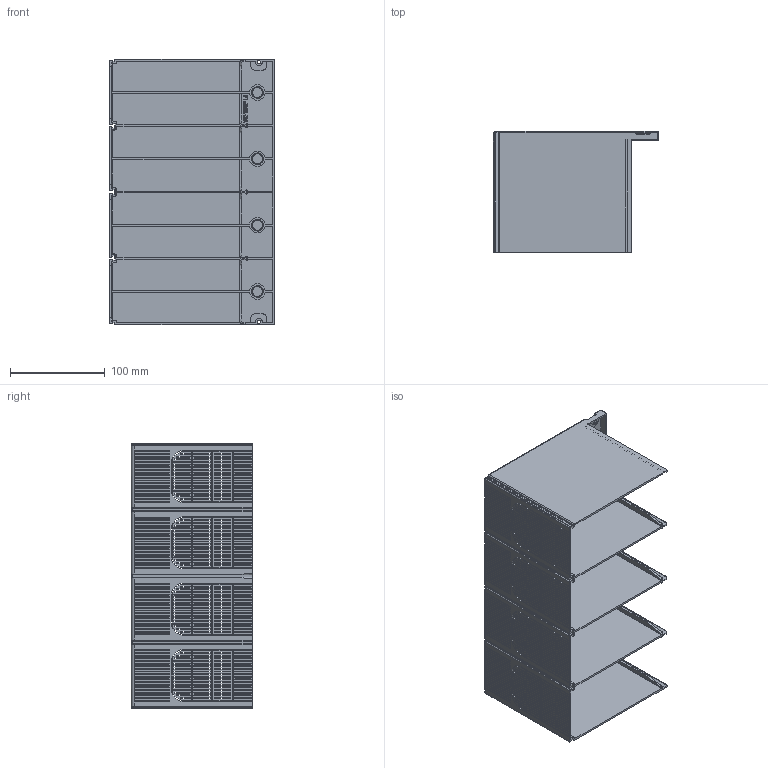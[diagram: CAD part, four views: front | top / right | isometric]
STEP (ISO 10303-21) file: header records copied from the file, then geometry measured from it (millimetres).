
FILE_DESCRIPTION((''),'2;1');
FILE_NAME('U8_4P_LONG_TERMINAL_COVER','2018-06-04T',('HHI'),(''),'PRO/ENGINEER BY PARAMETRIC TECHNOLOGY CORPORATION, 2012453','PRO/ENGINEER BY PARAMETRIC TECHNOLOGY CORPORATION, 2012453','');
FILE_SCHEMA(('CONFIG_CONTROL_DESIGN'));
Products named in the file (1): U8_4P_LONG_TERMINAL_COVER
Bounding box: 174.8 x 128 x 280 mm (x, y, z)
Volume: 362250.5 mm3; surface area: 405565 mm2
Topology: 1 solids, 1 shells, 2763 faces, 8613 edges, 5604 vertices
Faces by surface type: plane 1513, cylinder 1013, extrusion 95, torus 68, bspline 36, cone 22, sphere 16
Entity records: 99095 total; most frequent: CARTESIAN_POINT 19496, ORIENTED_EDGE 17214, DIRECTION 15928, EDGE_CURVE 8607, VECTOR 6148, LINE 6053, VERTEX_POINT 5604, AXIS2_PLACEMENT_3D 4890
